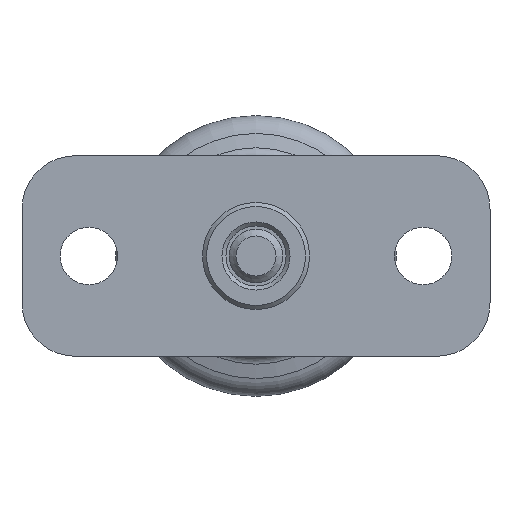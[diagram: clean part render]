
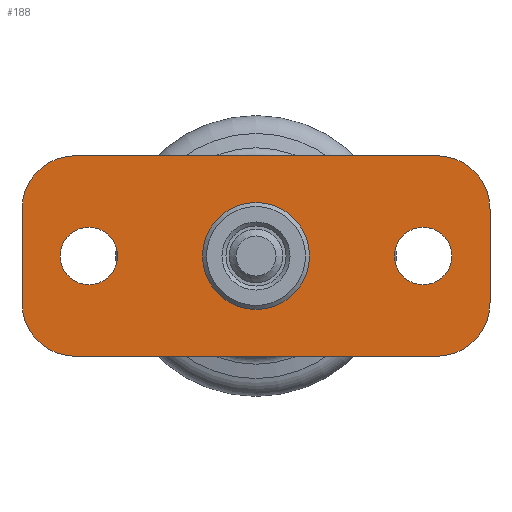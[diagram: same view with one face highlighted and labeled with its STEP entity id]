
A CAD part, front view. The second image highlights one B-rep face of the part: STEP entity #188.
In plain terms, the highlighted planar face has unit normal (0, -1, 0).
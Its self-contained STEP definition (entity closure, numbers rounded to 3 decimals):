
#188 = ADVANCED_FACE( '', ( #279, #280, #281, #282 ), #283, .F. );
#279 = FACE_BOUND( '', #428, .T. );
#280 = FACE_BOUND( '', #429, .T. );
#281 = FACE_OUTER_BOUND( '', #430, .T. );
#282 = FACE_BOUND( '', #431, .T. );
#283 = PLANE( '', #432 );
#428 = EDGE_LOOP( '', ( #645 ) );
#429 = EDGE_LOOP( '', ( #646 ) );
#430 = EDGE_LOOP( '', ( #647, #648, #649, #650, #651, #652, #653, #654 ) );
#431 = EDGE_LOOP( '', ( #655 ) );
#432 = AXIS2_PLACEMENT_3D( '', #656, #657, #658 );
#645 = ORIENTED_EDGE( '', *, *, #904, .F. );
#646 = ORIENTED_EDGE( '', *, *, #902, .F. );
#647 = ORIENTED_EDGE( '', *, *, #927, .F. );
#648 = ORIENTED_EDGE( '', *, *, #928, .F. );
#649 = ORIENTED_EDGE( '', *, *, #929, .F. );
#650 = ORIENTED_EDGE( '', *, *, #930, .F. );
#651 = ORIENTED_EDGE( '', *, *, #931, .F. );
#652 = ORIENTED_EDGE( '', *, *, #932, .F. );
#653 = ORIENTED_EDGE( '', *, *, #933, .F. );
#654 = ORIENTED_EDGE( '', *, *, #934, .F. );
#655 = ORIENTED_EDGE( '', *, *, #913, .F. );
#656 = CARTESIAN_POINT( '', ( -13.5, 0., 3.5 ) );
#657 = DIRECTION( '', ( 0., 1., 0. ) );
#658 = DIRECTION( '', ( 0., 0., 1. ) );
#902 = EDGE_CURVE( '', #1011, #1011, #1012, .T. );
#904 = EDGE_CURVE( '', #1015, #1015, #1016, .T. );
#913 = EDGE_CURVE( '', #1032, #1032, #1033, .T. );
#927 = EDGE_CURVE( '', #1059, #1060, #1061, .T. );
#928 = EDGE_CURVE( '', #1062, #1059, #1063, .T. );
#929 = EDGE_CURVE( '', #1064, #1062, #1065, .T. );
#930 = EDGE_CURVE( '', #1066, #1064, #1067, .T. );
#931 = EDGE_CURVE( '', #1068, #1066, #1069, .T. );
#932 = EDGE_CURVE( '', #1070, #1068, #1071, .T. );
#933 = EDGE_CURVE( '', #1072, #1070, #1073, .T. );
#934 = EDGE_CURVE( '', #1060, #1072, #1074, .T. );
#1011 = VERTEX_POINT( '', #1256 );
#1012 = CIRCLE( '', #1257, 2.15 );
#1015 = VERTEX_POINT( '', #1260 );
#1016 = CIRCLE( '', #1261, 2.15 );
#1032 = VERTEX_POINT( '', #1280 );
#1033 = CIRCLE( '', #1281, 4. );
#1059 = VERTEX_POINT( '', #1310 );
#1060 = VERTEX_POINT( '', #1311 );
#1061 = CIRCLE( '', #1312, 4. );
#1062 = VERTEX_POINT( '', #1313 );
#1063 = LINE( '', #1314, #1315 );
#1064 = VERTEX_POINT( '', #1316 );
#1065 = CIRCLE( '', #1317, 4. );
#1066 = VERTEX_POINT( '', #1318 );
#1067 = LINE( '', #1319, #1320 );
#1068 = VERTEX_POINT( '', #1321 );
#1069 = CIRCLE( '', #1322, 4. );
#1070 = VERTEX_POINT( '', #1323 );
#1071 = LINE( '', #1324, #1325 );
#1072 = VERTEX_POINT( '', #1326 );
#1073 = CIRCLE( '', #1327, 4. );
#1074 = LINE( '', #1328, #1329 );
#1256 = CARTESIAN_POINT( '', ( -12.5, 0., -2.15 ) );
#1257 = AXIS2_PLACEMENT_3D( '', #1521, #1522, #1523 );
#1260 = CARTESIAN_POINT( '', ( 12.5, 0., -2.15 ) );
#1261 = AXIS2_PLACEMENT_3D( '', #1527, #1528, #1529 );
#1280 = CARTESIAN_POINT( '', ( 0., 0., -4. ) );
#1281 = AXIS2_PLACEMENT_3D( '', #1548, #1549, #1550 );
#1310 = CARTESIAN_POINT( '', ( -13.5, 0., -7.5 ) );
#1311 = CARTESIAN_POINT( '', ( -17.5, 0., -3.5 ) );
#1312 = AXIS2_PLACEMENT_3D( '', #1584, #1585, #1586 );
#1313 = CARTESIAN_POINT( '', ( 13.5, 0., -7.5 ) );
#1314 = CARTESIAN_POINT( '', ( 13.5, 0., -7.5 ) );
#1315 = VECTOR( '', #1587, 1000. );
#1316 = CARTESIAN_POINT( '', ( 17.5, 0., -3.5 ) );
#1317 = AXIS2_PLACEMENT_3D( '', #1588, #1589, #1590 );
#1318 = CARTESIAN_POINT( '', ( 17.5, 0., 3.5 ) );
#1319 = CARTESIAN_POINT( '', ( 17.5, 0., 3.5 ) );
#1320 = VECTOR( '', #1591, 1000. );
#1321 = CARTESIAN_POINT( '', ( 13.5, 0., 7.5 ) );
#1322 = AXIS2_PLACEMENT_3D( '', #1592, #1593, #1594 );
#1323 = CARTESIAN_POINT( '', ( -13.5, 0., 7.5 ) );
#1324 = CARTESIAN_POINT( '', ( -13.5, 0., 7.5 ) );
#1325 = VECTOR( '', #1595, 1000. );
#1326 = CARTESIAN_POINT( '', ( -17.5, 0., 3.5 ) );
#1327 = AXIS2_PLACEMENT_3D( '', #1596, #1597, #1598 );
#1328 = CARTESIAN_POINT( '', ( -17.5, 0., -3.5 ) );
#1329 = VECTOR( '', #1599, 1000. );
#1521 = CARTESIAN_POINT( '', ( -12.5, 0., 0. ) );
#1522 = DIRECTION( '', ( 0., -1., 0. ) );
#1523 = DIRECTION( '', ( 0., 0., -1. ) );
#1527 = CARTESIAN_POINT( '', ( 12.5, 0., 0. ) );
#1528 = DIRECTION( '', ( 0., -1., 0. ) );
#1529 = DIRECTION( '', ( 0., 0., -1. ) );
#1548 = CARTESIAN_POINT( '', ( 0., 0., 0. ) );
#1549 = DIRECTION( '', ( 0., -1., 0. ) );
#1550 = DIRECTION( '', ( 0., 0., -1. ) );
#1584 = CARTESIAN_POINT( '', ( -13.5, 0., -3.5 ) );
#1585 = DIRECTION( '', ( 0., 1., 0. ) );
#1586 = DIRECTION( '', ( 1., 0., 0. ) );
#1587 = DIRECTION( '', ( -1., 0., 0. ) );
#1588 = CARTESIAN_POINT( '', ( 13.5, 0., -3.5 ) );
#1589 = DIRECTION( '', ( 0., 1., 0. ) );
#1590 = DIRECTION( '', ( 1., 0., 0. ) );
#1591 = DIRECTION( '', ( 0., 0., -1. ) );
#1592 = CARTESIAN_POINT( '', ( 13.5, 0., 3.5 ) );
#1593 = DIRECTION( '', ( 0., 1., 0. ) );
#1594 = DIRECTION( '', ( 1., 0., 0. ) );
#1595 = DIRECTION( '', ( 1., 0., 0. ) );
#1596 = CARTESIAN_POINT( '', ( -13.5, 0., 3.5 ) );
#1597 = DIRECTION( '', ( 0., 1., 0. ) );
#1598 = DIRECTION( '', ( 1., 0., 0. ) );
#1599 = DIRECTION( '', ( 0., 0., 1. ) );
